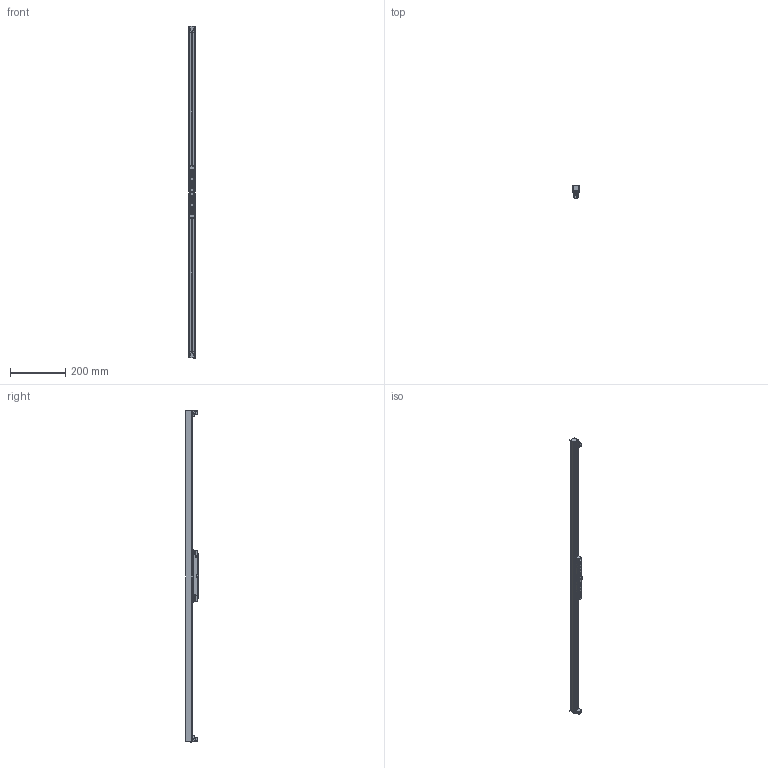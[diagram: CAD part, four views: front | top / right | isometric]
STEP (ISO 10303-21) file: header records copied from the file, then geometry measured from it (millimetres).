
FILE_DESCRIPTION (( 'STEP AP203' ), '1' );
FILE_NAME ('410101.STEP', '2025-04-02T02:30:57', ( '微软用户' ), ( '微软中国' ), 'SwSTEP 2.0', 'SolidWorks 2020', '' );
FILE_SCHEMA (( 'CONFIG_CONTROL_DESIGN' ));
Length unit declared in the file: millimetre
Products named in the file (21): 滓嫖黑芛ㄗ湍怢論ㄘ; MANIFOLD_SOLID_BREP_1148; 10-10-gk-2; ｳﾁﾍｷﾊｮﾗﾖﾗﾔｹ･ﾂﾝﾋｿ M2.5X8; MANIFOLD_SOLID_BREP_1149; 410101; 泛光灯体-1200（带台阶）; 安全扣：GN-CX01-10; MANIFOLD_SOLID_BREP_1150; 滓嫖醱欶-1200; 埴芛坋趼蹟佪M3X6; MANIFOLD_SOLID_BREP_1155; 臏價啣-410055; MANIFOLD_SOLID_BREP_1145; MANIFOLD_SOLID_BREP_1156; PET毀嫖祧-600; MANIFOLD_SOLID_BREP_1146; 10-07-WJ1; 黑芛掖蝶ㄗ湍怢論ㄘ; MANIFOLD_SOLID_BREP_1147; 10-08-G1_1
Assembly tree (31 placements, depth 3):
  410101
    泛光灯体-1200（带台阶）
    滓嫖醱欶-1200
    臏價啣-410055  x2
    PET毀嫖祧-600  x4
    黑芛掖蝶ㄗ湍怢論ㄘ  x2
    滓嫖黑芛ㄗ湍怢論ㄘ  x2
    ｳﾁﾍｷﾊｮﾗﾖﾗﾔｹ･ﾂﾝﾋｿ M2.5X8  x4
    安全扣：GN-CX01-10  x2
    埴芛坋趼蹟佪M3X6  x2
    10-10-gk-2
      MANIFOLD_SOLID_BREP_1145
      MANIFOLD_SOLID_BREP_1146
      MANIFOLD_SOLID_BREP_1147
      MANIFOLD_SOLID_BREP_1148
      MANIFOLD_SOLID_BREP_1149
      MANIFOLD_SOLID_BREP_1150
      MANIFOLD_SOLID_BREP_1155
      MANIFOLD_SOLID_BREP_1156
      10-07-WJ1
      10-08-G1_1
Bounding box: 22 x 44.4 x 1204.4 mm (x, y, z)
Volume: 275201.3 mm3; surface area: 407384.2 mm2
Topology: 34 solids, 34 shells, 3911 faces, 10091 edges, 6670 vertices
Faces by surface type: plane 3193, cylinder 511, bspline 130, cone 77
Entity records: 96002 total; most frequent: CARTESIAN_POINT 30051, ORIENTED_EDGE 13972, DIRECTION 11427, EDGE_CURVE 6986, LINE 5039, VECTOR 5039, VERTEX_POINT 4615, AXIS2_PLACEMENT_3D 3194
